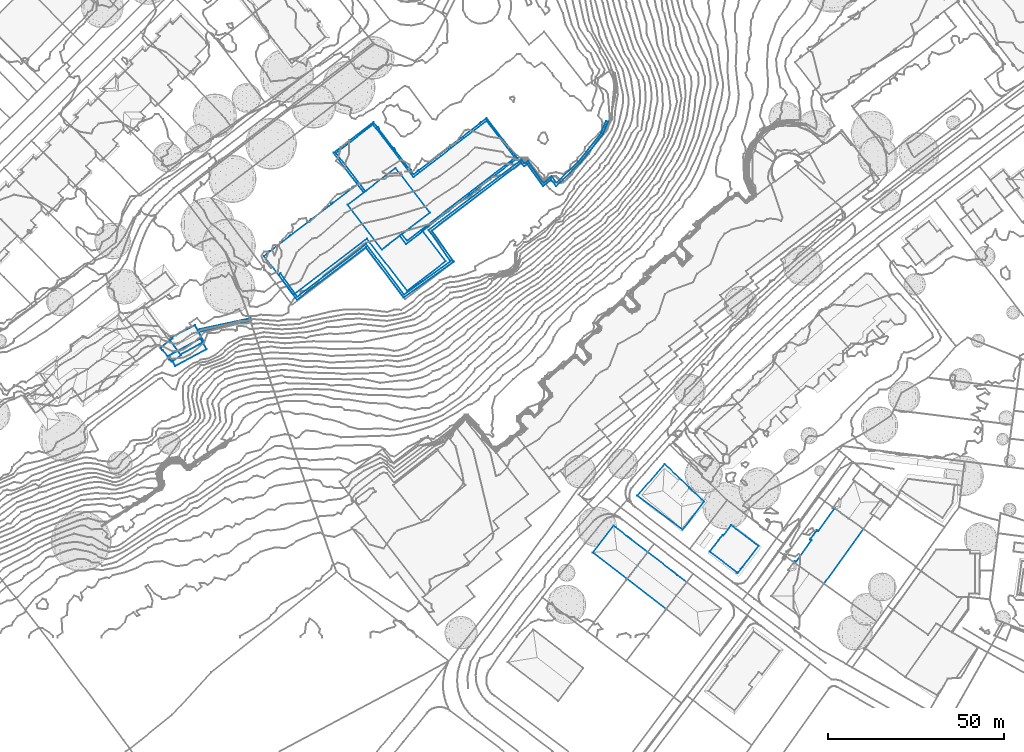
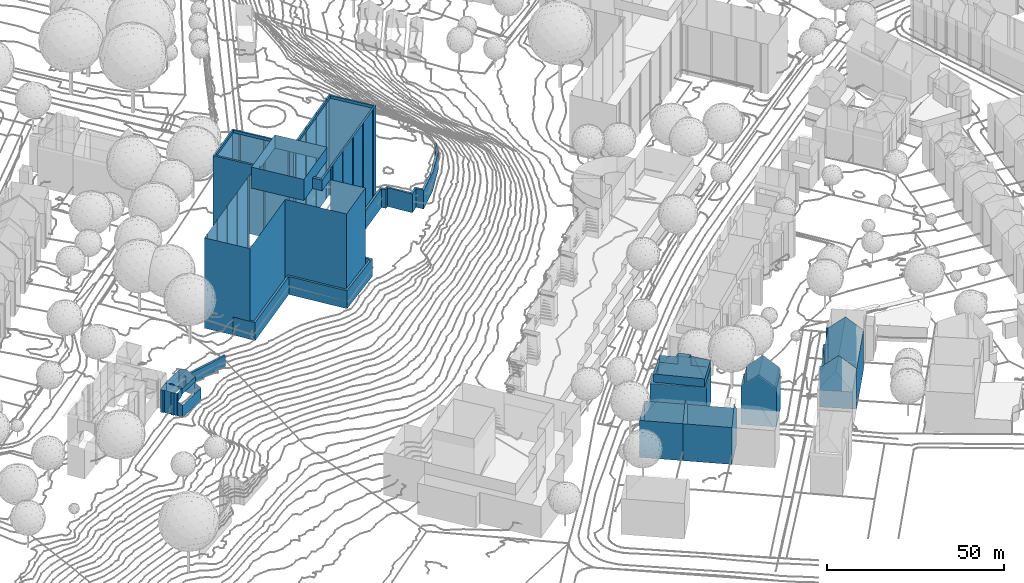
# Not in any storey, part 35 of 477: 9 walls.
"""IFC4 building model written with IfcOpenShell, lengths in metres."""

from ifc_helpers import new_model, si_unit, frame, origin_with_axes, place, context, subcontext, project, spatial, polygons, element, save


model = new_model("IFC4")

# Units and contexts
model_context = context("Model", 3, precision=1e-05, world=origin_with_axes())
body_context = subcontext(model_context, "Body", "Model", "MODEL_VIEW")
ifc_project = project(units=[si_unit("AREAUNIT", "SQUARE_METRE"), si_unit("LENGTHUNIT", "METRE")], contexts=[model_context])

# Sites, building
site_1_placement = place(None, origin_with_axes())
site_1 = spatial("IfcSite", under=ifc_project, at=site_1_placement, Name="Topoexport Site")
site_2_placement = place(site_1_placement, origin_with_axes())
site_2 = spatial("IfcSite", under=site_1, at=site_2_placement, Name="TPX_BUILDINGS")
building_1_placement = place(site_2_placement, frame((313.8287320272, 39.0809160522, 500.1915), z_axis=(0.0, 0.0, 1.0), x_axis=(1.0, 0.0, 0.0)))
building_1 = spatial("IfcBuilding", under=site_2, at=building_1_placement, Name="Building 7", CompositionType="ELEMENT")

# Wall
wall_1_placement = place(None, frame((313.8287320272, 39.0809160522, 500.1915), z_axis=(0.0, 0.0, 1.0), x_axis=(1.0, 0.0, 0.0)))
element("IfcWall", 1, at=wall_1_placement, inside=building_1, Name="Wall 0", context=body_context, shape_type="Tessellation", body=[
    polygons([(0.0, 0.0, 0.0), (7.7670000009, 8.9550000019, 11.5769), (0.0, 0.0, 11.5769), (12.8499999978, -9.7138999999, 0.0), (12.8499999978, -9.7138999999, 11.5769), (18.9620000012, -1.7364000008, 0.0), (18.9620000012, -1.7364000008, 11.5769), (7.5929999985, 7.8104999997, 11.5769), (11.6629999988, 4.4257000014, 14.0567), (7.5929999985, 7.8104999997, 14.0567), (1.2569999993, 0.1981999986, 11.5769), (1.2569999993, 0.1981999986, 14.4256), (12.5839999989, -9.2294999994, 11.5769), (12.5839999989, -9.2294999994, 14.4256), (11.6629999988, 4.4257000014, 15.2725), (9.4979999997, 1.8242000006, 16.6284), (12.0370000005, 4.8768999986, 15.0366), (11.6629999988, 4.4257000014, 11.5769), (12.0370000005, 4.8768999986, 11.5769), (14.5659999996, 2.0126999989, 14.8676), (14.5, 1.932599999, 14.9096), (14.5, 1.932599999, 15.2845), (14.7749999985, 2.2626999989, 15.1405), (14.5649999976, 2.0106999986, 14.8316), (14.5659999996, 2.0126999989, 15.2425), (14.5649999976, 2.0106999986, 11.5769), (14.7749999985, 2.2626999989, 11.5769), (14.5649999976, 2.0106999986, 15.2725), (12.3999999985, -0.5909000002, 16.6284), (18.2580000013, -1.0645000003, 14.1746), (18.881000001, -1.6592000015, 11.5769), (18.881000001, -1.6592000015, 14.0586), (7.7670000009, 8.9550000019, 0.0), (12.0370000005, 4.8768999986, 0.0), (14.7749999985, 2.2626999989, 0.0), (18.2580000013, -1.0645000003, 0.0), (18.2580000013, -1.0645000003, 11.5769), (18.8499999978, -1.628899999, 14.0986)], [[[3, 2, 1]], [[5, 3, 4]], [[7, 5, 6]], [[10, 9, 8]], [[12, 10, 11]], [[14, 12, 13]], [[16, 15, 9]], [[9, 15, 17]], [[9, 19, 18]], [[22, 21, 20]], [[24, 23, 20]], [[20, 25, 22]], [[27, 24, 26]], [[23, 24, 27]], [[28, 25, 23]], [[22, 28, 29]], [[24, 20, 21]], [[24, 21, 29]], [[29, 21, 22]], [[25, 28, 22]], [[24, 30, 26]], [[32, 13, 31]], [[27, 17, 23]], [[34, 33, 19]], [[34, 19, 35]], [[37, 36, 27]], [[37, 38, 31]], [[38, 37, 30]], [[32, 31, 38]], [[31, 6, 37]], [[2, 33, 1]], [[3, 1, 4]], [[5, 4, 6]], [[9, 18, 8]], [[10, 8, 11]], [[12, 11, 13]], [[17, 19, 9]], [[23, 25, 20]], [[30, 37, 26]], [[14, 13, 32]], [[19, 17, 27]], [[33, 2, 19]], [[19, 27, 35]], [[36, 35, 27]], [[6, 36, 37]], [[31, 7, 6]]]),
])

# Building
building_2_placement = place(site_2_placement, frame((207.679732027, 107.243916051, 526.7712), z_axis=(0.0, 0.0, 1.0), x_axis=(1.0, 0.0, 0.0)))
building_2 = spatial("IfcBuilding", under=site_2, at=building_2_placement, Name="Building 10", CompositionType="ELEMENT")

# Wall
wall_2_placement = place(None, frame((207.679732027, 107.243916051, 526.7712), z_axis=(0.0, 0.0, 1.0), x_axis=(1.0, 0.0, 0.0)))
element("IfcWall", 2, at=wall_2_placement, inside=building_2, Name="Wall 0", context=body_context, shape_type="Tessellation", body=[
    polygons([(26.550999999, 20.4101999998, 0.0), (26.487999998, 20.4922000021, 31.203), (26.550999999, 20.4101999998, 31.203), (25.4849999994, 19.5899000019, 0.0), (25.4849999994, 19.5899000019, 31.203), (25.4219999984, 19.6719000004, 0.0), (25.4219999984, 19.6719000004, 31.203), (25.0810000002, 19.4101999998, 0.0), (25.0810000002, 19.4101999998, 31.203), (25.1440000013, 19.3282000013, 0.0), (25.1440000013, 19.3282000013, 31.203), (19.5390000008, 15.0196000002, 0.0), (19.5390000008, 15.0196000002, 31.203), (19.4769999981, 15.0997000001, 0.0), (19.4769999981, 15.0997000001, 31.203), (19.1359999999, 14.8379000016, 0.0), (19.1359999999, 14.8379000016, 31.203), (19.1979999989, 14.7578000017, 0.0), (19.1979999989, 14.7578000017, 31.203), (13.5839999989, 10.4415000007, 0.0), (13.5839999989, 10.4415000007, 31.203), (13.5229999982, 10.5206000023, 0.0), (13.5229999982, 10.5206000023, 31.203), (13.1909999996, 10.264700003, 0.0), (13.1909999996, 10.264700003, 31.203), (13.2509999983, 10.1856000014, 0.0), (13.2509999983, 10.1856000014, 31.203), (7.6369999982, 5.871100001, 0.0), (7.6369999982, 5.871100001, 31.203), (7.5779999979, 5.9483000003, 0.0), (7.5779999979, 5.9483000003, 31.203), (7.2289999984, 5.6788000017, 0.0), (7.2289999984, 5.6788000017, 31.203), (7.2879999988, 5.6026000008, 0.0), (7.2879999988, 5.6026000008, 31.203), (1.6979999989, 1.3047000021, 0.0), (1.6979999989, 1.3047000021, 31.203), (1.6400000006, 1.379900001, 0.0), (1.6400000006, 1.379900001, 31.203), (1.2989999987, 1.1182000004, 0.0), (1.2989999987, 1.1182000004, 31.203), (1.3570000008, 1.0430000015, 0.0), (1.3570000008, 1.0430000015, 31.203), (0.0, 0.0, 0.0), (0.0, 0.0, 31.203), (8.4690000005, -11.0125999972, -0.0001), (8.4690000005, -11.0126999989, 31.2029), (29.2599999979, 4.9786000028, -0.0001), (29.2599999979, 4.9786000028, 31.2029), (26.487999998, 20.4922000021, 0.0), (26.5260000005, 20.5206000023, 31.203), (61.7960000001, 37.9942000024, -0.0001), (63.3579999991, 39.193400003, 34.8936), (61.7960000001, 37.9942000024, 34.8936), (61.7639999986, 38.0362000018, -0.0001), (61.7639999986, 38.0362000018, 34.8936), (61.4230000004, 37.7735000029, -0.0001), (61.4230000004, 37.7735000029, 34.8936), (61.4549999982, 37.7314999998, -0.0001), (61.4549999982, 37.7314999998, 34.8936), (55.8610000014, 33.433600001, -0.0001), (55.8610000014, 33.433600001, 34.8936), (55.8299999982, 33.4737000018, -0.0001), (55.8299999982, 33.4737000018, 34.8936), (55.4890000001, 33.2110000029, -0.0001), (55.4890000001, 33.2110000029, 34.8936), (55.5199999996, 33.1709000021, -0.0001), (55.5199999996, 33.1709000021, 34.8936), (49.9210000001, 28.8692000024, -0.0001), (49.9210000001, 28.8692000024, 34.8936), (49.8920000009, 28.9053000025, -0.0001), (49.8920000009, 28.9053000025, 34.8936), (49.550999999, 28.6436000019, -0.0001), (49.550999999, 28.6436000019, 34.8936), (49.5799999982, 28.6064999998, -0.0001), (49.5799999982, 28.6064999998, 34.8936), (43.9780000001, 24.3008000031, -0.0001), (43.9780000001, 24.3008000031, 34.8936), (43.9499999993, 24.3370000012, -0.0001), (43.9499999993, 24.3370000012, 34.8936), (43.6169999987, 24.0811000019, -0.0001), (43.6169999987, 24.0811000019, 34.8936), (43.6449999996, 24.0450000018, -0.0001), (43.6449999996, 24.0450000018, 34.8936), (42.5669999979, 23.2168000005, -0.0001), (42.5669999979, 23.2168000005, 34.8936), (41.75, 24.2774000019, -0.0001), (41.75, 24.2774000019, 34.8936), (41.8269999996, 24.3370000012, -0.0001), (41.8269999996, 24.3370000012, 34.8936), (41.5639999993, 24.6788000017, -0.0001), (41.5639999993, 24.6788000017, 34.8936), (41.4869999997, 24.6192000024, -0.0001), (41.4869999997, 24.6192000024, 34.8936), (37.1710000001, 30.2159000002, 0.0), (37.1710000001, 30.2159000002, 34.8936), (37.256000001, 30.2803000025, 0.0), (37.256000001, 30.2803000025, 34.8936), (36.9930000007, 30.6231000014, 0.0), (36.9930000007, 30.6231000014, 34.8936), (36.9079999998, 30.5567000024, 0.0), (36.9079999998, 30.5567000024, 34.8936), (32.5859999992, 36.1631000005, 0.0), (32.5859999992, 36.1631000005, 34.8936), (32.6779999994, 36.2334000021, 0.0), (32.6779999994, 36.2334000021, 34.8936), (32.4160000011, 36.5752000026, 0.0), (32.4160000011, 36.5752000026, 34.8936), (32.3229999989, 36.5030000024, 0.0), (32.3229999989, 36.5030000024, 34.8936), (31.1119999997, 38.0743000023, 0.0), (31.1119999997, 38.0743000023, 34.8936), (19.7520000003, 29.3311000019, 0.0), (19.7520000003, 29.3311000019, 34.8936), (40.4290000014, 3.3858000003, 31.2029), (38.6160000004, 5.7432000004, 34.8936), (40.4290000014, 3.3858000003, 34.8936), (45.379999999, 7.192400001, -0.0001), (45.1660000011, 7.0274000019, 31.2029), (45.379999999, 7.192400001, 34.8936), (45.3289999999, 7.2588, -0.0001), (45.3289999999, 7.2588, 34.8936), (46.3999999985, 8.0821000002, -0.0001), (46.3999999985, 8.0821000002, 34.8936), (46.4499999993, 8.0157000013, -0.0001), (46.4499999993, 8.0157000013, 34.8936), (46.7910000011, 8.2774000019, -0.0001), (46.7910000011, 8.2774000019, 34.8936), (46.7410000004, 8.3438000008, -0.0001), (46.7410000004, 8.3438000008, 34.8936), (52.379999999, 12.6749000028, -0.0001), (52.379999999, 12.6748000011, 34.8936), (52.4279999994, 12.6123000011, -0.0001), (52.4279999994, 12.6123000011, 34.8936), (52.7609999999, 12.8692000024, -0.0001), (52.7609999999, 12.8692000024, 34.8936), (52.7129999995, 12.9317000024, -0.0001), (52.7129999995, 12.9317000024, 34.8936), (58.3169999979, 17.2344000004, -0.0001), (58.3169999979, 17.2344000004, 34.8936), (58.3619999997, 17.1758000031, -0.0001), (58.3619999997, 17.1758000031, 34.8936), (58.7029999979, 17.4375, -0.0001), (58.7029999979, 17.4375, 34.8936), (58.6579999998, 17.496100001, -0.0001), (58.6579999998, 17.496100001, 34.8936), (64.2589999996, 21.7950000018, -0.0001), (64.2589999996, 21.7950000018, 34.8936), (64.3000000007, 21.7422000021, -0.0001), (64.3000000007, 21.7422000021, 34.8936), (64.6409999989, 22.0039000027, -0.0001), (64.6409999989, 22.0040000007, 34.8936), (64.6000000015, 22.0567000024, -0.0001), (64.6000000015, 22.0567000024, 34.8936), (70.1600000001, 26.327200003, -0.0001), (70.1600000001, 26.327200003, 34.8936), (70.1979999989, 26.2774000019, -0.0001), (70.1979999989, 26.2774000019, 34.8936), (70.5579999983, 26.5547000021, -0.0001), (70.5579999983, 26.5547000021, 34.8936), (70.5199999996, 26.6036000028, -0.0001), (70.5199999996, 26.6036000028, 34.8936), (72.0789999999, 27.8008000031, -0.0001), (72.0789999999, 27.8008000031, 34.8936), (63.3579999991, 39.193400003, -0.0001), (28.4019999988, 18.0821000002, 31.203), (28.4019999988, 18.0821000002, 34.8936), (26.5260000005, 20.5206000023, 0.0), (20.5119999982, 29.2872000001, 33.9067), (28.8579999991, 18.4317000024, 34.8936), (20.5119999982, 29.2872000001, 34.8936), (31.0529999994, 37.3925999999, 33.9067), (31.0529999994, 37.3925999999, 34.8936), (42.5370000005, 22.4581000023, 33.9067), (42.5370000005, 22.4581000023, 34.8936), (63.3079999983, 38.4307000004, 33.9067), (63.3079999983, 38.4307000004, 34.8936), (71.3779999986, 27.9375, 33.9067), (71.3779999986, 27.9375, 34.8936), (40.6779999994, 4.3300999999, 33.9067), (40.6779999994, 4.3300999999, 34.8936), (39.2280000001, 6.2159000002, 33.9067), (39.2280000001, 6.2159000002, 34.8936), (51.7039999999, -1.4736000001, -0.0001), (40.7190000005, -9.9217999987, 31.2029), (51.7039999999, -1.4736000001, 31.2029), (37.4360000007, 25.0274000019, 33.9067), (47.1919999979, 12.3399000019, 38.4992), (37.4360000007, 25.0274000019, 38.4993), (23.7820000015, 14.5263999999, 31.203), (23.7820000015, 14.5263999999, 38.4993), (28.8579999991, 18.4317000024, 33.9067), (33.5379999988, 1.8399000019, 31.2029), (33.5379999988, 1.8399000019, 38.4992), (47.1919999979, 12.3399000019, 33.9067), (38.6160000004, 5.7432000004, 31.2029), (40.7190000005, -9.9217999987, -0.0001), (45.1660000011, 7.0274000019, -0.0001)], [[[3, 2, 1]], [[5, 3, 4]], [[7, 5, 6]], [[9, 7, 8]], [[11, 9, 10]], [[13, 11, 12]], [[15, 13, 14]], [[17, 14, 16]], [[19, 16, 18]], [[21, 19, 20]], [[23, 21, 22]], [[25, 23, 24]], [[27, 25, 26]], [[29, 27, 28]], [[31, 29, 30]], [[33, 31, 32]], [[35, 33, 34]], [[37, 35, 36]], [[39, 37, 38]], [[41, 39, 40]], [[43, 41, 42]], [[45, 43, 44]], [[47, 45, 46]], [[49, 47, 48]], [[2, 51, 50]], [[54, 53, 52]], [[56, 54, 55]], [[58, 56, 57]], [[60, 58, 59]], [[62, 60, 61]], [[64, 62, 63]], [[66, 64, 65]], [[68, 66, 67]], [[70, 68, 69]], [[72, 70, 71]], [[74, 72, 73]], [[76, 74, 75]], [[78, 76, 77]], [[80, 78, 79]], [[82, 80, 81]], [[84, 82, 83]], [[86, 84, 85]], [[88, 86, 87]], [[90, 88, 89]], [[92, 90, 91]], [[94, 92, 93]], [[96, 94, 95]], [[98, 96, 97]], [[100, 98, 99]], [[102, 100, 101]], [[104, 102, 103]], [[106, 104, 105]], [[108, 106, 107]], [[110, 108, 109]], [[112, 110, 111]], [[114, 112, 113]], [[117, 116, 115]], [[120, 119, 118]], [[119, 120, 117]], [[115, 119, 117]], [[122, 120, 121]], [[124, 122, 123]], [[126, 124, 125]], [[128, 126, 127]], [[130, 128, 129]], [[132, 130, 131]], [[134, 132, 133]], [[136, 134, 135]], [[138, 136, 137]], [[140, 138, 139]], [[142, 140, 141]], [[144, 142, 143]], [[146, 144, 145]], [[148, 146, 147]], [[150, 148, 149]], [[152, 150, 151]], [[154, 152, 153]], [[156, 154, 155]], [[158, 156, 157]], [[160, 158, 159]], [[162, 160, 161]], [[164, 162, 163]], [[53, 164, 165]], [[167, 51, 166]], [[51, 167, 114]], [[51, 113, 168]], [[113, 51, 114]], [[171, 170, 169]], [[173, 171, 172]], [[175, 173, 174]], [[177, 175, 176]], [[179, 177, 178]], [[181, 179, 180]], [[183, 181, 182]], [[186, 185, 184]], [[189, 188, 187]], [[191, 167, 190]], [[167, 191, 170]], [[166, 190, 167]], [[170, 189, 187]], [[189, 170, 191]], [[187, 192, 170]], [[194, 191, 193]], [[188, 183, 195]], [[183, 188, 194]], [[182, 195, 183]], [[116, 194, 193]], [[194, 116, 183]], [[196, 116, 193]], [[185, 49, 197]], [[119, 186, 198]], [[2, 50, 1]], [[3, 1, 4]], [[5, 4, 6]], [[7, 6, 8]], [[9, 8, 10]], [[11, 10, 12]], [[13, 12, 14]], [[15, 14, 17]], [[17, 16, 19]], [[19, 18, 20]], [[21, 20, 22]], [[23, 22, 24]], [[25, 24, 26]], [[27, 26, 28]], [[29, 28, 30]], [[31, 30, 32]], [[33, 32, 34]], [[35, 34, 36]], [[37, 36, 38]], [[39, 38, 40]], [[41, 40, 42]], [[43, 42, 44]], [[45, 44, 46]], [[47, 46, 48]], [[51, 168, 50]], [[53, 165, 52]], [[54, 52, 55]], [[56, 55, 57]], [[58, 57, 59]], [[60, 59, 61]], [[62, 61, 63]], [[64, 63, 65]], [[66, 65, 67]], [[68, 67, 69]], [[70, 69, 71]], [[72, 71, 73]], [[74, 73, 75]], [[76, 75, 77]], [[78, 77, 79]], [[80, 79, 81]], [[82, 81, 83]], [[84, 83, 85]], [[86, 85, 87]], [[88, 87, 89]], [[90, 89, 91]], [[92, 91, 93]], [[94, 93, 95]], [[96, 95, 97]], [[98, 97, 99]], [[100, 99, 101]], [[102, 101, 103]], [[104, 103, 105]], [[106, 105, 107]], [[108, 107, 109]], [[110, 109, 111]], [[112, 111, 113]], [[116, 196, 115]], [[119, 198, 118]], [[120, 118, 121]], [[122, 121, 123]], [[124, 123, 125]], [[126, 125, 127]], [[128, 127, 129]], [[130, 129, 131]], [[132, 131, 133]], [[134, 133, 135]], [[136, 135, 137]], [[138, 137, 139]], [[140, 139, 141]], [[142, 141, 143]], [[144, 143, 145]], [[146, 145, 147]], [[148, 147, 149]], [[150, 149, 151]], [[152, 151, 153]], [[154, 153, 155]], [[156, 155, 157]], [[158, 157, 159]], [[160, 159, 161]], [[162, 161, 163]], [[164, 163, 165]], [[170, 192, 169]], [[171, 169, 172]], [[173, 172, 174]], [[175, 174, 176]], [[177, 176, 178]], [[179, 178, 180]], [[181, 180, 182]], [[185, 197, 184]], [[188, 195, 187]], [[191, 190, 193]], [[49, 48, 197]], [[186, 184, 198]]]),
])

# Building
building_3_placement = place(site_2_placement, frame((211.8297320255, 101.9383160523, 526.7541), z_axis=(0.0, 0.0, 1.0), x_axis=(1.0, 0.0, 0.0)))
building_3 = spatial("IfcBuilding", under=site_2, at=building_3_placement, Name="Building 18", CompositionType="ELEMENT")

# Walls
wall_3_placement = place(None, frame((211.8297320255, 101.9383160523, 526.7541), z_axis=(0.0, 0.0, 1.0), x_axis=(1.0, 0.0, 0.0)))
element("IfcWall", 3, at=wall_3_placement, inside=building_3, Name="Wall 0", context=body_context, shape_type="Tessellation", body=[
    polygons([(68.9820000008, 31.8183000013, 0.0), (43.5920000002, 12.5654000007, 6.2064), (68.9820000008, 31.8183000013, 6.5044), (42.7239999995, 12.7030999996, 0.0), (69.0769999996, 32.6875, 0.0), (42.7239999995, 12.7030999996, 6.2064), (5.2149999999, -7.1689999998, 0.0), (0.0, 0.0, 6.2065), (5.2149999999, -7.1689999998, 6.2064), (24.8300000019, 7.7958999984, 0.0), (24.8300000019, 7.7958999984, 6.2064), (35.5850000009, -6.5419999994, 0.0), (35.5850000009, -6.5419999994, 6.2064), (49.7470000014, 3.6680000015, 0.0), (49.7470000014, 3.6680000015, 6.2064), (43.5920000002, 12.5654000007, 0.0), (48.870000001, 3.8192999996, 0.0), (48.870000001, 3.8192999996, 6.2064), (35.7190000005, -5.6611000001, 0.0), (35.7190000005, -5.6611000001, 6.2064), (24.9539999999, 8.6893999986, 0.0), (24.9539999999, 8.6893999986, 6.2064), (5.3460000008, -6.2685999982, 0.0), (5.3460000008, -6.2685999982, 6.2064), (0.5140000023, 0.3740000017, 0.0), (0.5140000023, 0.3740000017, 6.2065), (0.0, 0.0, 0.0), (69.8550000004, 30.7969000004, 0.0), (69.8550000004, 30.7969000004, 6.5044), (70.7380000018, 31.3691000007, 0.0), (70.7380000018, 31.3691000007, 6.5044), (75.2160000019, 25.1708999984, 0.0), (75.2160000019, 25.1708999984, 6.5044), (77.5540000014, 27.0381000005, 0.0), (77.5540000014, 27.0381000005, 6.5044), (78.9220000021, 25.1425999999, 0.0), (78.9220000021, 25.1425999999, 6.5044), (85.6270000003, 31.621100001, 0.0), (85.6270000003, 31.621100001, 6.5044), (92.2200000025, 39.9149999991, 0.0), (92.2200000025, 39.9149999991, 6.5044), (93.6900000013, 43.4589999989, 0.0), (93.6900000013, 43.4589999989, 6.5044), (93.1030000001, 43.7021000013, 0.0), (93.1030000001, 43.7021000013, 6.5044), (91.6669999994, 40.2412, 0.0), (91.6669999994, 40.2412, 6.5044), (85.1559999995, 32.0498000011, 0.0), (85.1559999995, 32.0498000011, 6.5044), (79.0080000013, 26.1094000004, 0.0), (79.0080000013, 26.1094000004, 6.5044), (77.6790000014, 27.9521000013, 0.0), (77.6790000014, 27.9521000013, 6.5044), (75.3410000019, 26.0830000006, 0.0), (75.3410000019, 26.0830000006, 6.5044), (70.8990000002, 32.2324000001, 0.0), (70.8990000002, 32.2324000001, 6.5044), (69.9759999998, 31.6328000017, 0.0), (69.9759999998, 31.6328000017, 6.5044), (69.0769999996, 32.6875, 6.5044)], [[[3, 2, 1]], [[6, 5, 4]], [[9, 8, 7]], [[11, 9, 10]], [[13, 11, 12]], [[15, 13, 14]], [[2, 15, 16]], [[18, 6, 17]], [[20, 18, 19]], [[22, 20, 21]], [[24, 22, 23]], [[26, 24, 25]], [[8, 26, 27]], [[29, 3, 28]], [[31, 29, 30]], [[33, 31, 32]], [[35, 33, 34]], [[37, 35, 36]], [[39, 37, 38]], [[41, 39, 40]], [[43, 41, 42]], [[45, 43, 44]], [[47, 45, 46]], [[49, 47, 48]], [[51, 49, 50]], [[53, 51, 52]], [[55, 53, 54]], [[57, 55, 56]], [[59, 57, 58]], [[60, 59, 5]], [[2, 16, 1]], [[60, 5, 6]], [[8, 27, 7]], [[9, 7, 10]], [[11, 10, 12]], [[13, 12, 14]], [[15, 14, 16]], [[6, 4, 17]], [[18, 17, 19]], [[20, 19, 21]], [[22, 21, 23]], [[24, 23, 25]], [[26, 25, 27]], [[3, 1, 28]], [[29, 28, 30]], [[31, 30, 32]], [[33, 32, 34]], [[35, 34, 36]], [[37, 36, 38]], [[39, 38, 40]], [[41, 40, 42]], [[43, 42, 44]], [[45, 44, 46]], [[47, 46, 48]], [[49, 48, 50]], [[51, 50, 52]], [[53, 52, 54]], [[55, 54, 56]], [[57, 56, 58]], [[59, 58, 5]]]),
])
wall_4_placement = place(None, frame((211.8297320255, 101.9383160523, 526.7541), z_axis=(0.0, 0.0, 1.0), x_axis=(1.0, 0.0, 0.0)))
element("IfcWall", 4, at=wall_4_placement, inside=building_3, Name="Wall 2", context=body_context, shape_type="Tessellation", body=[
    polygons([(-7.8469999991, -13.1435999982, -0.6119), (-22.8649999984, -16.3652999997, -0.6119), (-7.8469999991, -13.1435999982, 3.0268), (-7.9979999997, -12.4395000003, -0.6119), (-7.9979999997, -12.4395000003, 3.0268), (-23.0159999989, -15.6611000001, -0.6119), (-23.0159999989, -15.6611999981, 3.1258), (-22.8649999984, -16.3652999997, 3.1258)], [[[3, 2, 1]], [[5, 3, 4]], [[7, 5, 6]], [[8, 7, 2]], [[8, 2, 3]], [[3, 1, 4]], [[5, 4, 6]], [[7, 6, 2]]]),
])

# Building
building_4_placement = place(site_2_placement, frame((310.929732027, 15.368916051, 513.3392), z_axis=(0.0, 0.0, 1.0), x_axis=(1.0, 0.0, 0.0)))
building_4 = spatial("IfcBuilding", under=site_2, at=building_4_placement, Name="Building 25", CompositionType="ELEMENT")

# Wall
wall_5_placement = place(None, frame((310.929732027, 15.368916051, 513.3392), z_axis=(0.0, 0.0, 1.0), x_axis=(1.0, 0.0, 0.0)))
element("IfcWall", 5, at=wall_5_placement, inside=building_4, Name="Wall 0", context=body_context, shape_type="Tessellation", body=[
    polygons([(13.9970000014, -4.753899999, -12.7678), (11.0769999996, -8.5653999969, 0.0), (13.9970000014, -4.753899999, 4.7545), (0.0, 0.0001000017, -12.7677), (2.9210000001, 3.8106000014, -12.7677), (0.0, 0.0, 0.0), (11.0769999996, -8.5653999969, -12.7678), (5.8610000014, 7.6456000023, -12.7677), (8.629999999, 5.505900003, 0.004), (5.8610000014, 7.6456000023, 0.005), (10.8709999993, 3.7735000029, -12.7678), (14.1689999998, 1.2247000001, 0.002), (11.3969999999, 3.3672000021, 0.003), (14.2729999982, 1.1446000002, -12.7678), (16.938000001, -0.9149999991, 0.0), (16.938000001, -0.9149999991, -12.7678), (2.9210000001, 3.8106000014, 4.7546)], [[[3, 2, 1]], [[6, 5, 4]], [[2, 6, 7]], [[10, 9, 8]], [[11, 8, 9]], [[14, 13, 12]], [[12, 15, 14]], [[14, 11, 13]], [[14, 15, 16]], [[17, 8, 5]], [[8, 17, 10]], [[1, 15, 3]], [[1, 16, 15]], [[2, 7, 1]], [[17, 5, 6]], [[6, 4, 7]], [[9, 13, 11]]]),
])

# Building
building_5_placement = place(site_2_placement, frame((301.1767320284, 22.9119160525, 500.5715), z_axis=(0.0, 0.0, 1.0), x_axis=(1.0, 0.0, 0.0)))
building_5 = spatial("IfcBuilding", under=site_2, at=building_5_placement, Name="Building 27", CompositionType="ELEMENT")

# Wall
wall_6_placement = place(None, frame((301.1767320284, 22.9119160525, 500.5715), z_axis=(0.0, 0.0, 1.0), x_axis=(1.0, 0.0, 0.0)))
element("IfcWall", 6, at=wall_6_placement, inside=building_5, Name="Wall 0", context=body_context, shape_type="Tessellation", body=[
    polygons([(12.6739999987, -3.7324000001, 0.0), (9.7529999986, -7.5430000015, 12.7677), (12.6739999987, -3.7324000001, 17.5223), (9.7529999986, -7.5430000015, 0.0), (0.0, 0.0, 12.7677), (0.0, 0.0, 0.0), (5.8659999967, 7.5850000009, 12.7677), (5.8659999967, 7.5850000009, 0.0), (15.6140000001, 0.1026000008, 12.7677), (5.9049999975, 7.5546999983, 12.8157), (15.6140000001, 0.1026000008, 0.0)], [[[3, 2, 1]], [[2, 5, 4]], [[5, 7, 6]], [[7, 8, 6]], [[11, 10, 9]], [[11, 8, 10]], [[9, 1, 11]], [[2, 4, 1]], [[5, 6, 4]], [[7, 10, 8]], [[3, 1, 9]]]),
])

# Building
building_6_placement = place(site_2_placement, frame((334.417732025, 23.1512160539, 500.1795), z_axis=(0.0, 0.0, 1.0), x_axis=(1.0, 0.0, 0.0)))
building_6 = spatial("IfcBuilding", under=site_2, at=building_6_placement, Name="Building 28", CompositionType="ELEMENT")

# Wall
wall_7_placement = place(None, frame((334.417732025, 23.1512160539, 500.1795), z_axis=(0.0, 0.0, 1.0), x_axis=(1.0, 0.0, 0.0)))
element("IfcWall", 7, at=wall_7_placement, inside=building_6, Name="Wall 0", context=body_context, shape_type="Tessellation", body=[
    polygons([(2.5240000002, 3.3055999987, 0.0), (1.1110000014, 1.4540999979, 13.3337), (1.3600000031, 1.7801999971, 3.3307), (0.0, 0.0, 13.3317), (0.0, 0.0, 0.0), (4.0270000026, -3.0752000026, 17.5753), (5.2640000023, -4.0196000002, 16.3224), (4.0270000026, -3.0752000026, 0.0), (1.0030000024, -0.7666000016, 14.3886), (6.0840000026, 7.4862999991, 13.5847), (8.2170000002, 5.8574000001, 0.0), (7.0940000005, 6.7157999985, 14.6486), (6.0840000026, 7.4862999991, 0.0), (10.5210000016, 4.0986000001, 16.9163), (9.8710000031, 4.5946999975, 17.5753), (9.8710000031, 4.5946999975, 5.8584), (10.7310000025, 3.9375, 0.0), (3.8630000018, 4.5702999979, 0.0), (3.8630000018, 4.5702999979, 13.5857), (3.6270000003, 4.75, 13.3377), (3.6270000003, 4.75, 0.0), (7.6610000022, -5.8506000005, 13.8926), (7.6610000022, -5.8506000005, 0.0), (12.1420000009, 2.860299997, 3.1907), (11.2520000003, 3.5389999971, 16.1754), (13.5040000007, 1.8192999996, 13.8926), (13.8380000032, 1.5643999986, 0.0), (11.8350000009, -1.0498000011, 12.8247), (13.8380000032, 1.5643999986, 12.8007), (12.5370000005, -0.1338, 0.0), (11.0450000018, -2.0791000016, 0.0), (9.7310000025, -3.7959000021, 0.0), (10.324000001, -3.0205000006, 12.8427), (7.7149999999, -5.8925999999, 13.7156), (7.7160000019, -5.8936000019, 0.0), (8.870000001, -4.9189999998, 12.8597), (9.3000000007, -4.3574000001, 12.8547), (9.3000000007, -4.3574000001, 4.8115), (7.9730000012, -6.0899000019, 12.8707), (8.8570000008, -4.9356000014, 0.0), (7.9730000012, -6.0899000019, 0.0), (2.5720000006, 3.3680999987, 13.3357)], [[[3, 2, 1]], [[5, 4, 2]], [[3, 1, 5]], [[3, 5, 2]], [[7, 6, 5]], [[7, 5, 8]], [[4, 5, 9]], [[12, 11, 10]], [[10, 11, 13]], [[15, 14, 11]], [[16, 11, 14]], [[16, 17, 11]], [[19, 10, 18]], [[10, 13, 18]], [[21, 20, 19]], [[18, 21, 19]], [[23, 22, 7]], [[7, 8, 23]], [[17, 25, 24]], [[14, 25, 16]], [[25, 26, 24]], [[24, 27, 17]], [[30, 29, 28]], [[27, 29, 30]], [[28, 31, 30]], [[33, 32, 31]], [[27, 26, 29]], [[35, 34, 23]], [[38, 37, 36]], [[40, 36, 39]], [[38, 33, 37]], [[32, 33, 38]], [[40, 32, 38]], [[39, 41, 40]], [[34, 35, 39]], [[39, 35, 41]], [[2, 42, 1]], [[42, 20, 21]], [[1, 42, 21]], [[6, 9, 5]], [[15, 11, 12]], [[25, 17, 16]], [[26, 27, 24]], [[28, 33, 31]], [[22, 23, 34]], [[38, 36, 40]]]),
])

# Building
building_7_placement = place(site_2_placement, frame((358.3217320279, 20.123816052, 499.6315), z_axis=(0.0, 0.0, 1.0), x_axis=(1.0, 0.0, 0.0)))
building_7 = spatial("IfcBuilding", under=site_2, at=building_7_placement, Name="Building 30", CompositionType="ELEMENT")

# Wall
wall_8_placement = place(None, frame((358.3217320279, 20.123816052, 499.6315), z_axis=(0.0, 0.0, 1.0), x_axis=(1.0, 0.0, 0.0)))
element("IfcWall", 8, at=wall_8_placement, inside=building_7, Name="Wall 0", context=body_context, shape_type="Tessellation", body=[
    polygons([(8.5529999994, -6.121100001, 0.0), (4.3979999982, -3.1473999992, 0.0), (8.5529999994, -6.121100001, 13.9786), (19.7679999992, 9.4550999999, 0.0), (19.7679999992, 9.4550999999, 13.9786), (15.6089999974, 12.4248000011, 0.0), (15.6089999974, 12.4248000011, 18.1723), (6.557, 9.1581999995, 0.0), (6.557, 9.1581999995, 13.9787), (6.4149999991, 8.9600000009, 14.1266), (6.935999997, 8.884800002, 0.0), (6.935999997, 8.884800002, 13.9787), (11.424999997, 15.1182000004, 13.9787), (11.7170000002, 15.2071000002, 0.0), (11.7170000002, 15.2071000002, 14.1346), (11.0289999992, 15.4033000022, 0.0), (11.1479999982, 15.5694000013, 14.1087), (11.0289999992, 15.4033000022, 13.9787), (11.1689999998, 15.5996000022, 0.0), (11.424999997, 15.1182000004, 0.0), (11.1939999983, 15.5811000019, 0.0), (11.1939999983, 15.5811000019, 14.1326), (11.1689999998, 15.5996000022, 14.1067), (0.5859999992, -0.4188999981, 14.2176), (4.3979999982, -3.1473999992, 18.1722), (0.5869999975, 0.066399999, 0.0), (5.0409999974, 6.2529999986, 13.9787), (0.5869999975, 0.066399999, 13.9787), (0.5859999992, -0.4188999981, 0.0), (0.0, 0.0, 0.0), (0.231999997, 0.3233000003, 13.9787), (0.231999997, 0.3233000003, 0.0), (0.0, 0.0, 14.1506), (0.0659999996, -0.0467999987, 14.2186), (4.6689999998, 6.5205000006, 13.9787), (4.6689999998, 6.5205000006, 0.0), (4.810999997, 6.7197999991, 14.1326), (5.0409999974, 6.2529999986, 0.0), (5.9389999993, 8.2949000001, 5.9574), (5.8149999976, 8.1220999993, 14.1286), (5.2119999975, 7.2802999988, 5.2975), (4.810999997, 6.7197999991, 0.0), (5.3530000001, 7.4776000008, 14.1306), (5.612999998, 7.8399000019, 0.0), (0.0659999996, 0.0918000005, 14.1506)], [[[3, 2, 1]], [[5, 3, 4]], [[7, 5, 6]], [[10, 9, 8]], [[9, 11, 8]], [[11, 9, 12]], [[12, 13, 11]], [[15, 6, 14]], [[18, 17, 16]], [[17, 19, 16]], [[13, 18, 20]], [[18, 16, 20]], [[22, 14, 21]], [[19, 23, 22]], [[21, 19, 22]], [[25, 24, 2]], [[28, 27, 26]], [[24, 30, 29]], [[32, 31, 28]], [[26, 32, 28]], [[30, 33, 32]], [[34, 33, 30]], [[37, 36, 35]], [[27, 36, 38]], [[36, 27, 35]], [[41, 40, 39]], [[37, 43, 42]], [[41, 44, 42]], [[40, 10, 39]], [[39, 44, 41]], [[10, 8, 39]], [[39, 8, 44]], [[25, 2, 3]], [[3, 1, 4]], [[5, 4, 6]], [[13, 20, 11]], [[7, 6, 15]], [[15, 14, 22]], [[17, 23, 19]], [[24, 29, 2]], [[27, 38, 26]], [[45, 31, 32]], [[34, 30, 24]], [[33, 45, 32]], [[36, 37, 42]], [[43, 40, 41]], [[43, 41, 42]]]),
])

# Building
building_8_placement = place(site_2_placement, frame((178.2397320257, 81.0750160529, 523.9414), z_axis=(0.0, 0.0, 1.0), x_axis=(1.0, 0.0, 0.0)))
building_8 = spatial("IfcBuilding", under=site_2, at=building_8_placement, Name="Building 64", CompositionType="ELEMENT")

# Wall
wall_9_placement = place(None, frame((178.2397320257, 81.0750160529, 523.9414), z_axis=(0.0, 0.0, 1.0), x_axis=(1.0, 0.0, 0.0)))
element("IfcWall", 9, at=wall_9_placement, inside=building_8, Name="Wall 0", context=body_context, shape_type="Tessellation", body=[
    polygons([(0.2149999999, 0.1563000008, 0.0), (0.1559999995, 0.2373000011, 7.7243), (0.2149999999, 0.1563000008, 7.7243), (0.0, 0.0, 0.0), (0.0, 0.0, 7.7243), (0.4739999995, -0.629900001, 0.0), (0.4739999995, -0.629900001, 7.7243), (0.8220000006, -0.7118999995, 0.0), (0.8220000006, -0.7118999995, 7.7243), (1.9979999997, -2.3300999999, 0.0), (1.9979999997, -2.3300999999, 7.7243), (1.9710000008, -2.6182000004, 0.0), (1.9710000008, -2.6182000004, 7.7243), (2.4609999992, -3.2695000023, 0.0), (2.4609999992, -3.2695000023, 7.7243), (2.6180000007, -3.1552999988, 0.0), (2.6180000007, -3.1552999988, 7.7243), (3.125, -3.8524999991, 0.0), (3.125, -3.8524999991, 7.7243), (5.881000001, -2.0283000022, 4.9915), (3.5240000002, -3.8027000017, 7.7243), (5.881000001, -2.0283000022, 7.7243), (12.3430000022, 1.7558999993, 0.434), (12.0439999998, 1.5938000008, 5.1155), (12.3430000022, 1.7558999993, 6.8724), (5.7330000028, -1.8330000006, 6.8724), (12.0439999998, 1.5938000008, 0.434), (5.7330000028, -1.8330000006, 5.1155), (3.4539999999, 2.7236000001, 0.434), (3.2140000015, 3.0429999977, 7.2073), (3.4539999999, 2.7236000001, 7.4013), (2.7190000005, 2.1699000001, 7.4013), (3.1909999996, 1.5429999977, 7.7243), (2.7190000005, 2.1699000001, 7.7243), (4.9600000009, -0.8066000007, 0.434), (2.7190000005, 2.1699000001, 0.434), (2.7190000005, 2.1699000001, 0.0), (4.9600000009, -0.8066000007, 0.0), (13.0890000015, -0.3300999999, -0.227), (4.2340000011, -5.1387000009, 3.9956), (13.0890000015, -0.3300999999, 3.9956), (4.6810000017, -0.4345999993, 7.7243), (11.438000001, 2.7109000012, 0.434), (11.438000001, 2.7109000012, -0.227), (2.5390000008, -2.120099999, 0.0), (2.5390000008, -2.120099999, -0.227), (3.3790000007, -3.6669999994, 0.0), (3.3790000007, -3.6669999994, -0.227), (3.5240000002, -3.8027000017, 4.7696), (4.2340000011, -5.1387000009, -0.227), (3.432, -3.6279000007, -0.227), (3.432, -3.6279000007, 7.7243), (0.1559999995, 0.2373000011, 0.0), (3.2140000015, 3.0429999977, 0.434), (3.3880000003, 3.1338, 7.2043), (9.8520000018, 6.5137000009, 0.434), (9.8520000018, 6.5137000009, 7.2473), (3.9979999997, 0.4706999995, 8.2762), (11.006000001, 4.3095999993, 8.2402), (10.9720000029, 4.375, 8.2762), (10.9450000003, 4.4257999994, 8.2532), (10.9400000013, 4.4354999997, 8.2482), (10.9700000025, 4.378899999, 0.434), (10.9450000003, 4.4257999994, 0.434)], [[[3, 2, 1]], [[5, 3, 4]], [[7, 5, 6]], [[9, 7, 8]], [[11, 9, 10]], [[13, 11, 12]], [[15, 13, 14]], [[17, 15, 16]], [[19, 17, 18]], [[22, 21, 20]], [[25, 24, 23]], [[24, 25, 26]], [[23, 24, 27]], [[28, 24, 26]], [[31, 30, 29]], [[34, 33, 32]], [[37, 36, 35]], [[35, 38, 37]], [[41, 40, 39]], [[26, 42, 22]], [[26, 20, 28]], [[20, 26, 22]], [[44, 43, 27]], [[24, 41, 27]], [[27, 39, 44]], [[46, 45, 38]], [[38, 43, 44]], [[43, 38, 35]], [[38, 44, 46]], [[48, 47, 45]], [[45, 46, 48]], [[50, 40, 49]], [[49, 52, 51]], [[52, 49, 21]], [[49, 51, 50]], [[2, 34, 32]], [[36, 2, 32]], [[2, 36, 53]], [[29, 36, 32]], [[36, 37, 53]], [[29, 32, 31]], [[55, 54, 30]], [[55, 57, 56]], [[55, 56, 54]], [[42, 58, 33]], [[52, 19, 51]], [[51, 19, 47]], [[18, 47, 19]], [[47, 48, 51]], [[61, 60, 59]], [[61, 59, 62]], [[57, 62, 56]], [[56, 62, 59]], [[59, 25, 56]], [[25, 23, 63]], [[64, 56, 25]], [[63, 64, 25]], [[2, 53, 1]], [[3, 1, 4]], [[5, 4, 6]], [[7, 6, 8]], [[9, 8, 10]], [[11, 10, 12]], [[13, 12, 14]], [[15, 14, 16]], [[17, 16, 18]], [[21, 49, 20]], [[30, 54, 29]], [[40, 50, 39]], [[41, 39, 27]]]),
])

save(model, "model.ifc")
